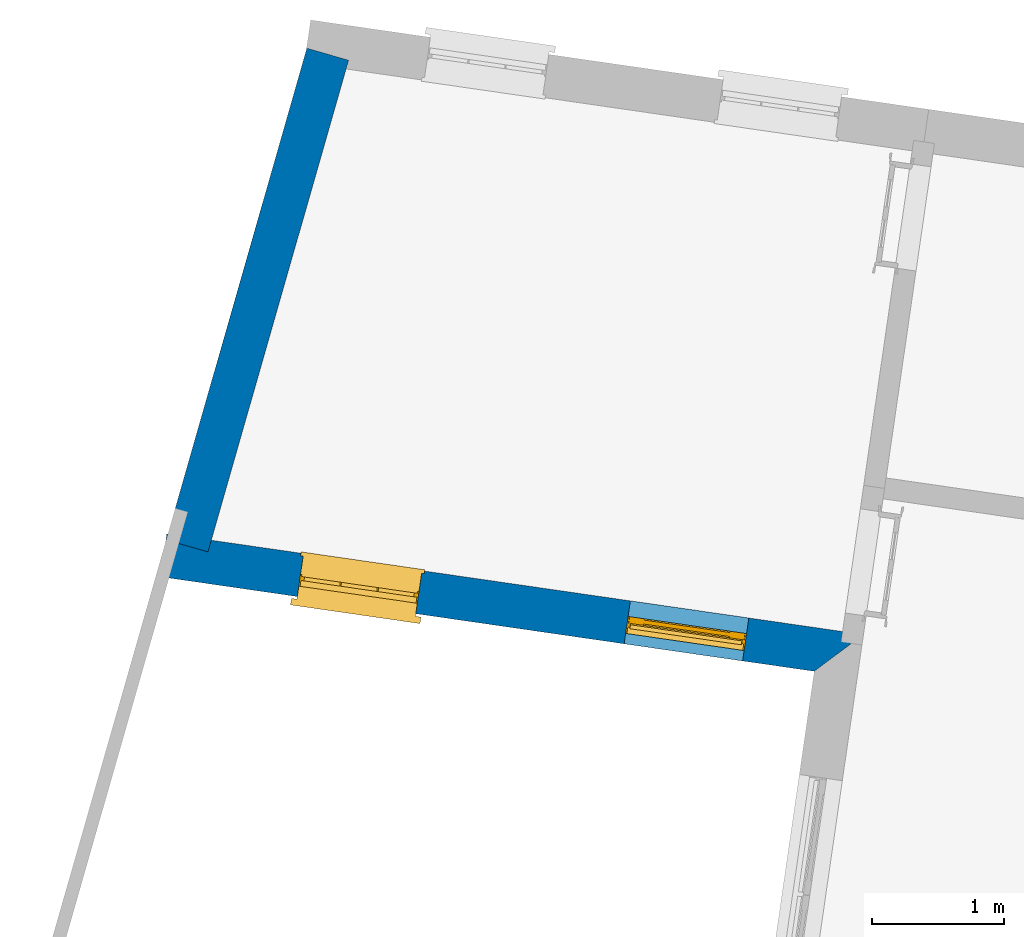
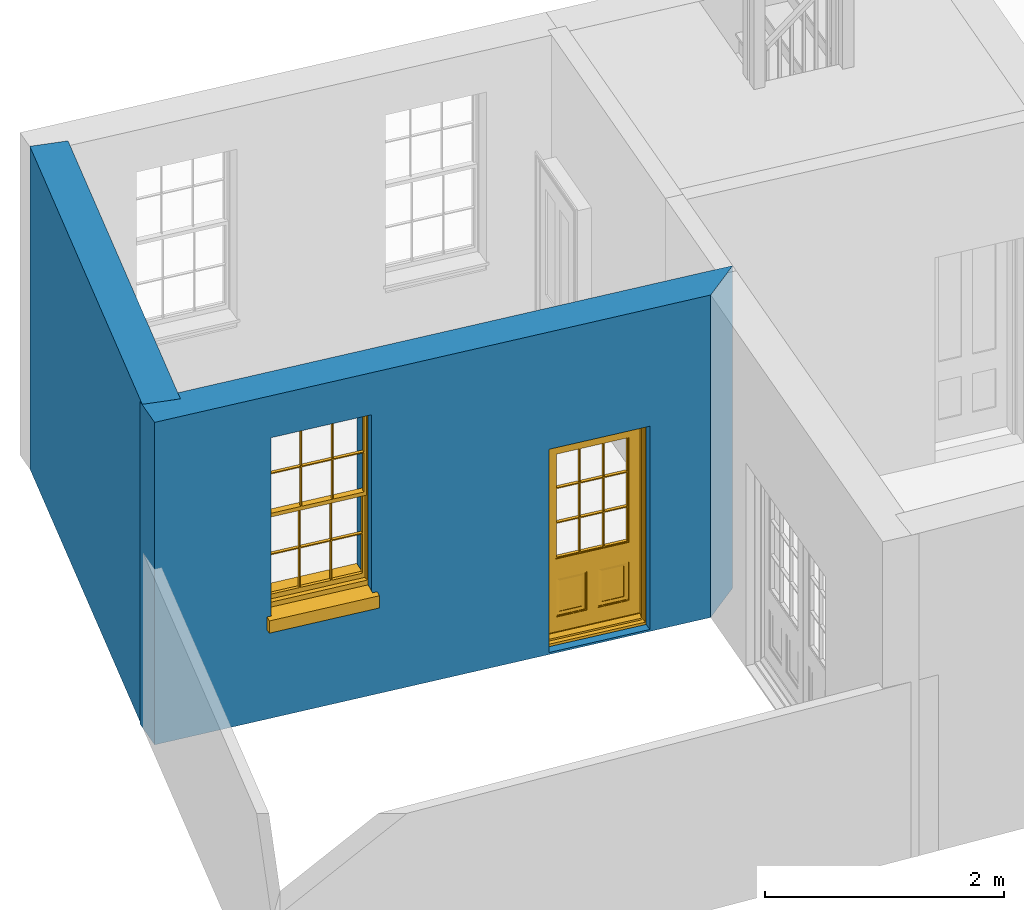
# One storey, part 3 of 7: 2 walls, 1 door, 1 window, 2 openings.
"""IFC4 building model written with IfcOpenShell, lengths in metres."""

from ifc_helpers import new_model, si_unit, frame, origin, origin_with_axes, place, context, subcontext, project, spatial, polyline, outline, extrude, faceted_brep, source, transform, mapped, material, layer, layer_set, layer_usage, type_object, type_shapes, element, fill, save


model = new_model("IFC4")

# Units and contexts
model_context = context("Model", 3, world=origin_with_axes())
body_context = subcontext(model_context, "Body", "Model", "MODEL_VIEW")
ifc_project = project(units=[si_unit("PLANEANGLEUNIT", "RADIAN"), si_unit("MASSUNIT", "GRAM", prefix="KILO"), si_unit("FORCEUNIT", "NEWTON", prefix="KILO"), si_unit("LENGTHUNIT", "METRE"), si_unit("AREAUNIT", "SQUARE_METRE"), si_unit("VOLUMEUNIT", "CUBIC_METRE")], contexts=[model_context, model_context])

# Sites, building, storey
site_1_placement = place(None, origin_with_axes())
site_1 = spatial("IfcSite", under=ifc_project, at=site_1_placement, Name="Tamar")
site_2_placement = place(site_1_placement, origin_with_axes())
site_2 = spatial("IfcSite", under=site_1, at=site_2_placement, Name="Site plot-30", CompositionType="ELEMENT")
building_placement = place(None, origin_with_axes())
building = spatial("IfcBuilding", under=site_2, at=building_placement, Name="Building plot-30", CompositionType="ELEMENT")
storey_placement = place(None, frame((0.0, 0.0, 25.0), z_axis=(0.0, 0.0, 1.0), x_axis=(1.0, 0.0, 0.0)))
storey = spatial("IfcBuildingStorey", under=building, at=storey_placement, Name="plot-30 0", CompositionType="ELEMENT", Elevation=25.0)

# Wall, openings, door, window
ifc_material_1 = material(Name="Masonry")
ifc_layer_1 = layer(ifc_material_1, 0.33, ventilated=False)
ifc_layer_set_1 = layer_set([ifc_layer_1], Name="exterior_0.08_0.25")
ifc_layer_usage_1 = layer_usage(ifc_layer_set_1, "AXIS2", "POSITIVE", -0.25)
wall_type_1 = type_object("IfcWallType", Name="exterior_0.08_0.25", PredefinedType="SOLIDWALL", material=ifc_layer_set_1)
wall_1_placement = place(storey_placement, frame((280.863315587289, 260.407676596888, 0.0), z_axis=(0.0, 0.0, 1.0), x_axis=(0.989705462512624, -0.143119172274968, 0.0)))
wall_1 = element("IfcWall", 1, at=wall_1_placement, inside=storey, type_object=wall_type_1, material=ifc_layer_usage_1, Name="exterior", context=body_context, shape_type="SweptSolid", body=[
    extrude(outline(polyline([(-0.249999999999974, 0.0800000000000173), (-0.249999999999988, -0.249999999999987), (4.77039673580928, -0.249999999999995), (5.10039673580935, 0.0800000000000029), (-0.249999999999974, 0.0800000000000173)])), origin_with_axes(), (0.0, 0.0, 1.0), 3.3),
])
opening_1_placement = place(wall_1_placement, frame((0.800099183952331, 0.0, 1.05)))
opening_1 = element("IfcOpeningElement", 2, at=opening_1_placement, cuts=wall_1, Name="My Opening", ObjectType="Opening", context=body_context, shape_type="SweptSolid", body=[
    extrude(outline(polyline([(0.0, -0.269999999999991), (0.909999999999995, -0.27000000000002), (0.909999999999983, 1.09999999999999), (-1.18793863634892e-14, 1.10000000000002), (0.0, -0.269999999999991)])), origin_with_axes(), (0.0, 0.0, 1.0), 1.82),
])
opening_2_placement = place(wall_1_placement, frame((3.31029755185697, 0.0, 0.0199999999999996)))
opening_2 = element("IfcOpeningElement", 3, at=opening_2_placement, cuts=wall_1, Name="My Opening", ObjectType="Opening", context=body_context, shape_type="SweptSolid", body=[
    extrude(outline(polyline([(0.0, -0.270000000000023), (0.909999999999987, -0.269999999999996), (0.909999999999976, 1.10000000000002), (-1.15463194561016e-14, 1.09999999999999), (0.0, -0.270000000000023)])), origin_with_axes(), (0.0, 0.0, 1.0), 2.08),
])
door_type = type_object("IfcDoorType", Name="door_panelled", OperationType="SINGLE_SWING_LEFT", PredefinedType="NOTDEFINED")
shared_shape_1 = source(origin(), body_context, "Body", "Brep", [
    faceted_brep([(0.545, 0.195, 0.265), (0.745, 0.195, 0.265), (0.745, 0.2, 0.265), (0.545, 0.2, 0.265), (0.745, 0.2, 0.58), (0.545, 0.2, 0.58), (0.545, 0.195, 0.58), (0.515, 0.19, 0.235), (0.775, 0.19, 0.235), (0.745, 0.195, 0.58), (0.515, 0.19, 0.61), (0.515, 0.185, 0.235), (0.775, 0.185, 0.235), (0.775, 0.19, 0.61), (0.515, 0.185, 0.61), (0.785, 0.185, 0.225), (0.505, 0.185, 0.225), (0.775, 0.185, 0.61), (0.505, 0.185, 0.62), (0.785, 0.185, 0.62), (0.505, 0.18, 0.225), (0.785, 0.18, 0.225), (0.505, 0.18, 0.62), (0.785, 0.18, 0.62), (0.883, 0.18, 0.075), (0.898, 0.18, 0.075), (0.405, 0.18, 0.62), (0.405, 0.18, 0.225), (0.027, 0.18, 0.075), (0.785, 0.18, 0.82), (0.125, 0.18, 0.82), (0.405, 0.185, 0.62), (0.405, 0.185, 0.225), (0.898, 0.18, 2.068), (0.027, 0.17, 0.075), (0.883, 0.17, 0.075), (0.125, 0.18, 0.225), (0.012, 0.18, 0.075), (0.785, 0.19, 0.82), (0.125, 0.19, 0.82), (0.125, 0.18, 0.62), (0.125, 0.185, 0.62), (0.395, 0.185, 0.61), (0.395, 0.185, 0.235), (0.125, 0.185, 0.225), (0.785, 0.18, 1.895), (0.027, 0.14, 0.045), (0.883, 0.14, 0.045), (0.558333, 0.19, 0.83), (0.351667, 0.19, 0.83), (0.125, 0.18, 1.895), (0.125, 0.19, 1.895), (0.785, 0.19, 1.895), (0.012, 0.18, 2.068), (0.135, 0.185, 0.61), (0.395, 0.19, 0.61), (0.395, 0.19, 0.235), (0.135, 0.185, 0.235), (0.027, 0.14, 0.027), (0.883, 0.14, 0.027), (0.568333, 0.19, 0.83), (0.558333, 0.22, 0.83), (0.351667, 0.22, 0.83), (0.341667, 0.19, 0.83), (0.135, 0.19, 1.185), (0.135, 0.19, 1.53), (0.775, 0.19, 1.53), (0.775, 0.19, 1.185), (0.135, 0.19, 0.61), (0.365, 0.195, 0.58), (0.365, 0.195, 0.265), (0.135, 0.19, 0.235), (0.568333, 0.19, 1.175), (0.558333, 0.19, 1.175), (0.775, 0.19, 0.83), (0.558333, 0.22, 1.175), (0.785, 0.22, 0.82), (0.125, 0.22, 0.82), (0.351667, 0.22, 1.175), (0.351667, 0.19, 1.175), (0.341667, 0.19, 1.175), (0.135, 0.19, 0.83), (0.135, 0.19, 1.175), (0.135, 0.22, 1.185), (0.135, 0.22, 1.53), (0.135, 0.19, 1.54), (0.351667, 0.19, 1.885), (0.558333, 0.19, 1.885), (0.775, 0.22, 1.53), (0.775, 0.22, 1.185), (0.775, 0.19, 1.175), (0.775, 0.19, 1.54), (0.165, 0.195, 0.58), (0.365, 0.2, 0.58), (0.365, 0.2, 0.265), (0.165, 0.195, 0.265), (0.568333, 0.22, 0.83), (0.568333, 0.22, 1.175), (0.568333, 0.19, 1.185), (0.558333, 0.19, 1.185), (0.775, 0.22, 0.83), (0.785, 0.23, 0.82), (0.125, 0.23, 0.82), (0.341667, 0.22, 0.83), (0.341667, 0.22, 1.175), (0.351667, 0.19, 1.185), (0.341667, 0.19, 1.185), (0.135, 0.22, 0.83), (0.341667, 0.22, 1.185), (0.125, 0.22, 1.895), (0.341667, 0.22, 1.53), (0.341667, 0.19, 1.53), (0.135, 0.19, 1.885), (0.341667, 0.19, 1.54), (0.341667, 0.19, 1.885), (0.558333, 0.22, 1.885), (0.351667, 0.22, 1.885), (0.568333, 0.19, 1.885), (0.785, 0.22, 1.895), (0.568333, 0.22, 1.185), (0.568333, 0.19, 1.53), (0.568333, 0.22, 1.53), (0.568333, 0.19, 1.54), (0.775, 0.19, 1.885), (0.165, 0.2, 0.58), (0.165, 0.2, 0.265), (0.775, 0.22, 1.175), (0.558333, 0.19, 1.53), (0.351667, 0.22, 1.185), (0.558333, 0.22, 1.185), (0.505, 0.23, 0.62), (0.405, 0.23, 0.62), (0.125, 0.23, 1.895), (0.785, 0.23, 1.895), (0.351667, 0.19, 1.53), (0.135, 0.22, 1.175), (0.135, 0.22, 1.54), (0.341667, 0.22, 1.54), (0.135, 0.22, 1.885), (0.351667, 0.19, 1.54), (0.558333, 0.22, 1.54), (0.558333, 0.19, 1.54), (0.351667, 0.22, 1.54), (0.775, 0.22, 1.54), (0.568333, 0.22, 1.54), (0.775, 0.22, 1.885), (0.558333, 0.22, 1.53), (0.405, 0.23, 0.225), (0.505, 0.23, 0.225), (0.125, 0.23, 0.62), (0.785, 0.23, 0.62), (0.012, 0.23, 2.068), (0.898, 0.23, 2.068), (0.351667, 0.22, 1.53), (0.341667, 0.22, 1.885), (0.568333, 0.22, 1.885), (0.405, 0.225, 0.225), (0.405, 0.225, 0.62), (0.505, 0.225, 0.62), (0.505, 0.225, 0.225), (0.898, 0.23, 0.027), (0.012, 0.23, 0.027), (0.125, 0.225, 0.62), (0.785, 0.225, 0.62), (0.395, 0.225, 0.235), (0.395, 0.225, 0.61), (0.125, 0.23, 0.225), (0.125, 0.225, 0.225), (0.515, 0.225, 0.61), (0.515, 0.225, 0.235), (0.785, 0.23, 0.225), (0.785, 0.225, 0.225), (0.135, 0.225, 0.61), (0.775, 0.225, 0.61), (0.135, 0.225, 0.235), (0.395, 0.22, 0.235), (0.395, 0.22, 0.61), (0.515, 0.22, 0.61), (0.515, 0.22, 0.235), (0.775, 0.225, 0.235), (0.135, 0.22, 0.61), (0.775, 0.22, 0.61), (0.135, 0.22, 0.235), (0.365, 0.215, 0.265), (0.365, 0.215, 0.58), (0.545, 0.215, 0.58), (0.545, 0.215, 0.265), (0.775, 0.22, 0.235), (0.165, 0.215, 0.58), (0.745, 0.215, 0.58), (0.165, 0.215, 0.265), (0.365, 0.21, 0.58), (0.365, 0.21, 0.265), (0.545, 0.21, 0.58), (0.545, 0.21, 0.265), (0.745, 0.215, 0.265), (0.165, 0.21, 0.58), (0.745, 0.21, 0.58), (0.165, 0.21, 0.265), (0.745, 0.21, 0.265), (0.885, 0.178, 0.025), (0.025, 0.178, 0.025), (0.025, 0.15, 0.025), (0.885, 0.15, 0.025), (0.9, 0.23, 0.025), (0.01, 0.23, 0.025), (0.9, 0.178, 0.025), (0.91, 0.23, 0.0), (0.0, 0.23, 0.0), (0.01, 0.178, 0.025), (0.9, 0.178, 2.07), (0.9, 0.23, 2.07), (0.885, 0.178, 2.055), (0.91, 0.23, 2.08), (0.01, 0.23, 2.07), (0.0, 0.23, 2.08), (0.01, 0.178, 2.07), (0.025, 0.178, 2.055), (0.0, 0.1, 2.08), (0.91, 0.1, 2.08), (0.01, 0.1, 2.07), (0.9, 0.1, 2.07), (0.01, 0.15, 2.07), (0.9, 0.15, 2.07), (0.0, 0.1, 0.0), (0.91, 0.1, 0.0), (0.01, 0.1, 0.025), (0.9, 0.1, 0.025), (0.01, 0.15, 0.025), (0.025, 0.15, 2.055), (0.9, 0.15, 0.025), (0.885, 0.15, 2.055), (0.898, 0.18, 0.027), (0.012, 0.18, 0.027), (0.883, 0.18, 0.027), (0.027, 0.18, 0.027)], [[[0, 1, 2, 3]], [[2, 4, 5, 3]], [[0, 3, 5, 6]], [[1, 0, 7, 8]], [[9, 4, 2, 1]], [[9, 6, 5, 4]], [[0, 6, 10, 7]], [[8, 7, 11, 12]], [[8, 13, 9, 1]], [[13, 10, 6, 9]], [[7, 10, 14, 11]], [[15, 12, 11, 16]], [[12, 17, 13, 8]], [[17, 14, 10, 13]], [[18, 16, 11, 14]], [[15, 19, 17, 12]], [[15, 16, 20, 21]], [[14, 17, 19, 18]], [[16, 18, 22, 20]], [[21, 23, 19, 15]], [[24, 25, 21, 20]], [[23, 22, 18, 19]], [[20, 22, 26, 27]], [[23, 21, 25]], [[28, 24, 20, 27]], [[22, 23, 29]], [[29, 30, 26, 22]], [[27, 26, 31, 32]], [[23, 25, 33, 29]], [[34, 35, 24, 28]], [[28, 27, 36, 37]], [[38, 39, 30, 29]], [[26, 30, 40]], [[26, 40, 41, 31]], [[42, 43, 32, 31]], [[32, 44, 36, 27]], [[33, 45, 29]], [[46, 47, 35, 34]], [[36, 40, 37]], [[39, 38, 48, 49]], [[50, 30, 39, 51]], [[29, 45, 52, 38]], [[53, 37, 40, 30]], [[44, 41, 40, 36]], [[31, 41, 54, 42]], [[43, 42, 55, 56]], [[57, 44, 32, 43]], [[50, 45, 33, 53]], [[47, 46, 58, 59]], [[60, 48, 38]], [[49, 48, 61, 62]], [[49, 63, 39]], [[50, 53, 30]], [[51, 39, 64, 65]], [[45, 50, 51, 52]], [[66, 67, 38, 52]], [[57, 54, 41, 44]], [[42, 54, 68, 55]], [[56, 55, 69, 70]], [[56, 71, 57, 43]], [[60, 72, 73, 48]], [[60, 38, 74]], [[48, 73, 75, 61]], [[76, 77, 62, 61]], [[62, 78, 79, 49]], [[49, 79, 80, 63]], [[63, 81, 39]], [[82, 64, 39]], [[65, 64, 83, 84]], [[85, 51, 65]], [[52, 51, 86, 87]], [[88, 89, 67, 66]], [[90, 38, 67]], [[91, 66, 52]], [[71, 68, 54, 57]], [[55, 68, 92, 69]], [[69, 93, 94, 70]], [[70, 95, 71, 56]], [[96, 97, 72, 60]], [[73, 72, 98, 99]], [[74, 38, 90]], [[100, 96, 60, 74]], [[75, 73, 79, 78]], [[61, 75, 97, 96]], [[101, 102, 77, 76]], [[77, 103, 62]], [[96, 76, 61]], [[103, 104, 78, 62]], [[80, 79, 105, 106]], [[63, 80, 104, 103]], [[81, 63, 103, 107]], [[81, 82, 39]], [[106, 64, 82, 80]], [[106, 108, 83, 64]], [[84, 83, 77, 109]], [[110, 111, 65, 84]], [[112, 51, 85]], [[113, 85, 65, 111]], [[114, 86, 51]], [[115, 87, 86, 116]], [[117, 52, 87]], [[118, 76, 89, 88]], [[119, 98, 67, 89]], [[120, 121, 88, 66]], [[67, 98, 72, 90]], [[91, 122, 120, 66]], [[91, 52, 123]], [[95, 92, 68, 71]], [[69, 92, 124, 93]], [[94, 93, 124, 125]], [[94, 125, 95, 70]], [[72, 97, 126, 90]], [[127, 99, 98, 120]], [[99, 105, 79, 73]], [[74, 90, 126, 100]], [[96, 100, 76]], [[128, 129, 75, 78]], [[97, 75, 129, 119]], [[130, 131, 102, 101]], [[109, 77, 102, 132]], [[133, 101, 76, 118]], [[77, 107, 103]], [[78, 104, 108, 128]], [[111, 106, 105, 134]], [[104, 80, 82, 135]], [[107, 135, 82, 81]], [[110, 108, 106, 111]], [[104, 135, 83, 108]], [[83, 135, 77]], [[136, 84, 109]], [[110, 84, 136, 137]], [[114, 51, 112]], [[85, 136, 138, 112]], [[113, 137, 136, 85]], [[111, 134, 139, 113]], [[86, 114, 113, 139]], [[140, 141, 87, 115]], [[139, 142, 116, 86]], [[109, 118, 115, 116]], [[117, 123, 52]], [[117, 87, 141, 122]], [[126, 89, 76]], [[143, 118, 88]], [[120, 98, 119, 121]], [[119, 89, 126, 97]], [[144, 143, 88, 121]], [[144, 122, 91, 143]], [[127, 120, 122, 141]], [[143, 91, 123, 145]], [[124, 92, 95, 125]], [[146, 129, 99, 127]], [[99, 129, 128, 105]], [[100, 126, 76]], [[121, 119, 129, 146]], [[147, 131, 130, 148]], [[131, 149, 102]], [[130, 101, 150]], [[102, 151, 132]], [[118, 109, 132, 133]], [[101, 133, 152]], [[107, 77, 135]], [[153, 128, 108, 110]], [[134, 105, 128, 153]], [[109, 138, 136]], [[153, 110, 137, 142]], [[154, 114, 112, 138]], [[137, 113, 114, 154]], [[141, 139, 134, 127]], [[141, 140, 142, 139]], [[144, 140, 115, 155]], [[142, 137, 154, 116]], [[155, 115, 118]], [[116, 154, 109]], [[117, 155, 145, 123]], [[122, 144, 155, 117]], [[143, 145, 118]], [[121, 146, 140, 144]], [[146, 127, 134, 153]], [[156, 157, 131, 147]], [[148, 130, 158, 159]], [[148, 160, 161, 147]], [[157, 162, 149, 131]], [[161, 151, 102, 149]], [[101, 152, 160, 150]], [[163, 158, 130, 150]], [[151, 152, 133, 132]], [[154, 138, 109]], [[142, 140, 146, 153]], [[145, 155, 118]], [[157, 156, 164, 165]], [[147, 166, 167, 156]], [[168, 169, 159, 158]], [[170, 148, 159, 171]], [[148, 170, 160]], [[166, 147, 161]], [[172, 162, 157, 165]], [[166, 149, 162, 167]], [[166, 161, 149]], [[150, 160, 170]], [[163, 173, 168, 158]], [[171, 163, 150, 170]], [[174, 164, 156, 167]], [[175, 176, 165, 164]], [[169, 168, 177, 178]], [[171, 159, 169, 179]], [[167, 162, 172, 174]], [[176, 180, 172, 165]], [[179, 173, 163, 171]], [[181, 177, 168, 173]], [[164, 174, 182, 175]], [[183, 184, 176, 175]], [[178, 177, 185, 186]], [[179, 169, 178, 187]], [[174, 172, 180, 182]], [[184, 188, 180, 176]], [[187, 181, 173, 179]], [[189, 185, 177, 181]], [[175, 182, 190, 183]], [[191, 184, 183, 192]], [[185, 193, 194, 186]], [[187, 178, 186, 195]], [[182, 180, 188, 190]], [[191, 196, 188, 184]], [[195, 189, 181, 187]], [[197, 193, 185, 189]], [[183, 190, 198, 192]], [[198, 196, 191, 192]], [[194, 193, 197, 199]], [[195, 186, 194, 199]], [[188, 196, 198, 190]], [[197, 189, 195, 199]], [[200, 201, 202, 203]], [[201, 200, 204, 205]], [[206, 204, 200]], [[204, 207, 208, 205]], [[209, 201, 205]], [[210, 211, 204, 206]], [[206, 200, 212, 210]], [[211, 213, 207, 204]], [[214, 205, 208, 215]], [[216, 217, 201, 209]], [[205, 214, 216, 209]], [[216, 214, 211, 210]], [[210, 212, 217, 216]], [[214, 215, 213, 211]], [[218, 219, 213, 215]], [[219, 218, 220, 221]], [[221, 220, 222, 223]], [[215, 208, 224, 218]], [[225, 224, 208, 207]], [[224, 226, 220, 218]], [[224, 225, 227, 226]], [[219, 225, 207, 213]], [[228, 222, 220, 226]], [[219, 221, 227, 225]], [[226, 227, 203, 202]], [[202, 229, 222, 228]], [[228, 226, 202]], [[227, 221, 223, 230]], [[230, 203, 227]], [[217, 229, 202, 201]], [[231, 223, 222, 229]], [[230, 223, 231, 203]], [[231, 229, 217, 212]], [[212, 200, 203, 231]], [[33, 152, 151, 53]], [[25, 160, 152, 33]], [[161, 37, 53, 151]], [[232, 160, 25]], [[161, 233, 37]], [[160, 232, 234]], [[24, 234, 232, 25]], [[233, 161, 235]], [[37, 233, 235, 28]], [[161, 160, 234, 235]], [[35, 47, 234, 24]], [[28, 235, 46, 34]], [[58, 235, 234, 59]], [[59, 234, 47]], [[58, 46, 235]]]),
])
type_shapes(door_type, [shared_shape_1])
door_placement = place(storey_placement, frame((284.10089298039, 259.666689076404, 0.0199999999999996), z_axis=(0.0, 0.0, 1.0), x_axis=(0.900631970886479, -0.130238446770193, 0.0)))
door = element("IfcDoor", 4, at=door_placement, inside=storey, type_object=door_type, Name="kitchen outside door", OverallHeight=2.08, OverallWidth=0.91, context=body_context, shape_type="MappedRepresentation", body=[
    mapped(shared_shape_1, transform((0.0, 0.0, 0.0), scale=1.0)),
])
fill(opening_2, door)
window_type = type_object("IfcWindowType", Name="sash_big", PartitioningType="DOUBLE_PANEL_HORIZONTAL", PredefinedType="NOTDEFINED")
shared_shape_2 = source(origin(), body_context, "Body", "Brep", [
    faceted_brep([(0.033125, 0.145, 0.975209), (0.01, 0.145, 0.975209), (0.033125, 0.145, 1.376042), (0.876875, 0.145, 0.975209), (0.876875, 0.145, 1.376042), (0.9, 0.145, 0.975209), (0.876875, 0.145, 1.386042), (0.876875, 0.145, 1.786875), (0.9, 0.145, 1.81), (0.033125, 0.145, 1.786875), (0.033125, 0.145, 1.386042), (0.01, 0.145, 1.81), (0.876875, 0.115, 1.376042), (0.876875, 0.115, 0.975209), (0.9, 0.115, 0.937083), (0.033125, 0.115, 1.786875), (0.01, 0.115, 1.81), (0.033125, 0.115, 1.386042), (0.01, 0.115, 0.937083), (0.033125, 0.115, 0.975209), (0.033125, 0.115, 1.376042), (0.876875, 0.115, 1.786875), (0.876875, 0.115, 1.386042), (0.9, 0.115, 1.81), (0.033125, 0.145, 0.937083), (0.01, 0.145, 0.937083), (0.033125, 0.145, 0.53625), (0.876875, 0.145, 0.937083), (0.876875, 0.145, 0.53625), (0.9, 0.145, 0.937083), (0.876875, 0.145, 0.52625), (0.876875, 0.145, 0.125417), (0.9, 0.145, 0.077167), (0.033125, 0.145, 0.125417), (0.033125, 0.145, 0.52625), (0.01, 0.145, 0.077167), (-0.0425, 0.0, 0.01), (-0.0425, -0.05, 0.001667), (0.0, 0.0, 0.01), (0.9525, 0.0, 0.01), (0.91, 0.0, 0.01), (0.9525, -0.05, 0.001667), (-0.02, 0.33, 0.077167), (0.0, 0.33, 0.077167), (-0.02, 0.36, 0.077167), (0.0, 0.19, 0.077167), (0.01, 0.19, 0.077167), (0.91, 0.19, 0.077167), (0.91, 0.33, 0.077167), (0.9, 0.19, 0.077167), (0.93, 0.33, 0.077167), (0.93, 0.36, 0.077167), (0.01, 0.175, 0.975209), (0.9, 0.175, 0.975209), (0.876875, 0.175, 0.125417), (0.876875, 0.175, 0.52625), (0.9, 0.175, 0.077167), (0.876875, 0.175, 0.53625), (0.876875, 0.175, 0.937083), (0.033125, 0.175, 0.125417), (0.01, 0.175, 0.077167), (0.033125, 0.175, 0.52625), (0.033125, 0.175, 0.937083), (0.033125, 0.175, 0.53625), (-0.02, 0.33, 0.052167), (-0.02, 0.36, 0.052167), (0.93, 0.36, 0.052167), (0.93, 0.33, 0.052167), (0.91, 0.33, 0.052167), (0.0, 0.33, 0.052167), (0.91, 0.1, 0.026667), (0.0, 0.1, 0.026667), (-0.0425, -0.05, -0.123333), (0.9525, -0.05, -0.123333), (-0.0425, 0.0, -0.123333), (0.9525, 0.0, -0.123333), (0.01, 0.19, 1.81), (0.9, 0.19, 1.81), (0.0, 0.19, 1.82), (0.91, 0.19, 1.82), (0.01, 0.1, 0.077167), (0.9, 0.1, 0.077167), (0.592292, 0.145, 0.125417), (0.592292, 0.175, 0.125417), (0.317708, 0.175, 0.125417), (0.317708, 0.145, 0.125417), (0.592292, 0.145, 0.53625), (0.317708, 0.145, 0.53625), (0.317708, 0.145, 0.52625), (0.592292, 0.145, 0.52625), (0.592292, 0.175, 0.53625), (0.317708, 0.175, 0.53625), (0.592292, 0.115, 1.386042), (0.592292, 0.145, 1.386042), (0.317708, 0.145, 1.386042), (0.317708, 0.115, 1.386042), (0.317708, 0.115, 1.376042), (0.592292, 0.115, 1.376042), (0.317708, 0.145, 1.376042), (0.592292, 0.145, 1.376042), (0.602292, 0.115, 1.376042), (0.592292, 0.115, 0.975209), (0.602292, 0.115, 0.975209), (0.602292, 0.145, 0.975209), (0.592292, 0.145, 0.975209), (0.602292, 0.145, 1.376042), (0.602292, 0.175, 0.53625), (0.602292, 0.145, 0.53625), (0.317708, 0.175, 0.52625), (0.307708, 0.175, 0.125417), (0.307708, 0.175, 0.52625), (0.602292, 0.175, 0.52625), (0.602292, 0.175, 0.125417), (0.592292, 0.175, 0.52625), (0.307708, 0.175, 0.53625), (0.317708, 0.175, 0.937083), (0.307708, 0.175, 0.937083), (0.602292, 0.175, 0.937083), (0.592292, 0.175, 0.937083), (0.307708, 0.145, 0.52625), (0.307708, 0.145, 0.125417), (0.307708, 0.145, 0.53625), (0.307708, 0.145, 0.937083), (0.592292, 0.145, 0.937083), (0.317708, 0.145, 0.937083), (0.602292, 0.145, 0.937083), (0.602292, 0.145, 0.52625), (0.602292, 0.145, 0.125417), (0.307708, 0.115, 1.386042), (0.307708, 0.115, 1.376042), (0.307708, 0.115, 0.975209), (0.317708, 0.115, 0.975209), (0.317708, 0.115, 1.786875), (0.307708, 0.115, 1.786875), (0.602292, 0.115, 1.786875), (0.592292, 0.115, 1.786875), (0.602292, 0.115, 1.386042), (0.602292, 0.145, 1.386042), (0.307708, 0.145, 1.386042), (0.307708, 0.145, 1.786875), (0.317708, 0.145, 1.786875), (0.592292, 0.145, 1.786875), (0.602292, 0.145, 1.786875), (0.307708, 0.145, 1.376042), (0.317708, 0.145, 0.975209), (0.307708, 0.145, 0.975209), (0.91, 0.1, 1.82), (0.9, 0.1, 1.81), (0.01, 0.1, 1.81), (0.0, 0.1, 1.82), (0.91, 0.0, 0.0), (0.0, 0.0, 0.0), (0.91, 0.33, 0.0), (0.0, 0.33, 0.0)], [[[0, 1, 2]], [[3, 4, 5]], [[6, 7, 8]], [[9, 10, 11]], [[12, 13, 14]], [[15, 16, 17]], [[18, 19, 20]], [[21, 22, 23]], [[24, 25, 26]], [[27, 28, 29]], [[30, 31, 32]], [[33, 34, 35]], [[14, 27, 29]], [[25, 24, 18]], [[36, 37, 38]], [[39, 40, 41]], [[42, 43, 44]], [[45, 46, 43]], [[47, 48, 49]], [[50, 51, 48]], [[1, 0, 52]], [[5, 53, 3]], [[54, 55, 56]], [[57, 58, 53]], [[59, 60, 61]], [[62, 63, 52]], [[48, 43, 46, 49]], [[51, 44, 43, 48]], [[64, 42, 44, 65]], [[65, 44, 51, 66]], [[66, 51, 50, 67]], [[65, 66, 68, 69]], [[60, 56, 49, 46]], [[70, 71, 38, 40]], [[37, 41, 40, 38]], [[37, 72, 73, 41]], [[74, 75, 73, 72]], [[8, 11, 76, 77]], [[76, 78, 79, 77]], [[32, 35, 80, 81]], [[81, 80, 71, 70]], [[82, 83, 84, 85]], [[86, 87, 88, 89]], [[86, 90, 91, 87]], [[92, 93, 94, 95]], [[92, 95, 96, 97]], [[96, 98, 99, 97]], [[100, 97, 101, 102]], [[103, 104, 99, 105]], [[97, 99, 104, 101]], [[102, 103, 105, 100]], [[28, 57, 106, 107]], [[108, 84, 109, 110]], [[111, 112, 83, 113]], [[114, 110, 61, 63]], [[90, 113, 108, 91]], [[115, 91, 114, 116]], [[117, 106, 90, 118]], [[111, 106, 57, 55]], [[119, 110, 109, 120]], [[34, 61, 110, 119]], [[89, 113, 83, 82]], [[88, 108, 113, 89]], [[85, 84, 108, 88]], [[121, 114, 63, 26]], [[122, 116, 114, 121]], [[123, 118, 90, 86]], [[87, 91, 115, 124]], [[107, 106, 117, 125]], [[126, 111, 55, 30]], [[127, 112, 111, 126]], [[126, 30, 28, 107]], [[88, 119, 120, 85]], [[126, 89, 82, 127]], [[125, 123, 86, 107]], [[121, 26, 34, 119]], [[124, 122, 121, 87]], [[128, 17, 20, 129]], [[96, 129, 130, 131]], [[132, 133, 128, 95]], [[134, 135, 92, 136]], [[100, 12, 22, 136]], [[137, 6, 4, 105]], [[94, 138, 139, 140]], [[137, 93, 141, 142]], [[99, 98, 94, 93]], [[143, 2, 10, 138]], [[144, 145, 143, 98]], [[129, 143, 145, 130]], [[20, 2, 143, 129]], [[131, 144, 98, 96]], [[128, 138, 10, 17]], [[133, 139, 138, 128]], [[135, 141, 93, 92]], [[95, 94, 140, 132]], [[22, 6, 137, 136]], [[136, 137, 142, 134]], [[100, 105, 4, 12]], [[107, 86, 89, 126]], [[106, 111, 113, 90]], [[91, 108, 110, 114]], [[87, 121, 119, 88]], [[97, 100, 136, 92]], [[129, 96, 95, 128]], [[98, 143, 138, 94]], [[105, 99, 93, 137]], [[131, 101, 104, 144]], [[124, 115, 118, 123]], [[132, 140, 141, 135]], [[120, 109, 59, 33]], [[15, 9, 139, 133]], [[134, 142, 7, 21]], [[31, 54, 112, 127]], [[36, 74, 72, 37]], [[39, 41, 73, 75]], [[18, 14, 101, 131]], [[23, 16, 132, 135]], [[83, 56, 60, 84]], [[52, 53, 118, 115]], [[53, 52, 144, 104]], [[11, 8, 141, 140]], [[14, 18, 124, 123]], [[2, 1, 11, 10]], [[8, 5, 4, 6]], [[57, 53, 56, 55]], [[60, 52, 63, 61]], [[26, 25, 35, 34]], [[32, 29, 28, 30]], [[14, 23, 22, 12]], [[18, 20, 17, 16]], [[19, 0, 2, 20]], [[17, 10, 9, 15]], [[12, 4, 3, 13]], [[21, 7, 6, 22]], [[27, 58, 57, 28]], [[30, 55, 54, 31]], [[33, 59, 61, 34]], [[26, 63, 62, 24]], [[5, 8, 77, 53]], [[76, 11, 1, 52]], [[46, 45, 78, 76]], [[49, 77, 79, 47]], [[70, 146, 147, 81]], [[71, 80, 148, 149]], [[19, 130, 145, 0]], [[102, 13, 3, 103]], [[116, 122, 24, 62]], [[29, 32, 81, 14]], [[80, 35, 25, 18]], [[60, 46, 76, 52]], [[77, 49, 56, 53]], [[23, 14, 81, 147]], [[16, 148, 80, 18]], [[35, 85, 120]], [[120, 33, 35]], [[127, 82, 32]], [[32, 31, 127]], [[32, 82, 85, 35]], [[102, 101, 14]], [[14, 13, 102]], [[18, 131, 130]], [[130, 19, 18]], [[134, 21, 23]], [[23, 135, 134]], [[16, 15, 133]], [[133, 132, 16]], [[11, 140, 139]], [[139, 9, 11]], [[142, 141, 8]], [[8, 7, 142]], [[23, 147, 148, 16]], [[146, 149, 148, 147]], [[52, 115, 116]], [[116, 62, 52]], [[118, 53, 117]], [[58, 117, 53]], [[27, 125, 117, 58]], [[56, 83, 112]], [[112, 54, 56]], [[109, 84, 60]], [[60, 59, 109]], [[125, 27, 14]], [[14, 123, 125]], [[122, 124, 18]], [[18, 24, 122]], [[145, 144, 52]], [[52, 0, 145]], [[103, 3, 53]], [[53, 104, 103]], [[79, 78, 149, 146]], [[78, 45, 71, 149]], [[146, 70, 47, 79]], [[150, 75, 74, 151]], [[68, 66, 67]], [[48, 68, 67, 50]], [[69, 64, 65]], [[42, 64, 69, 43]], [[69, 68, 152, 153]], [[70, 68, 48, 47]], [[150, 152, 68, 70]], [[43, 69, 71, 45]], [[69, 153, 151, 71]], [[152, 150, 151, 153]], [[38, 151, 74, 36]], [[71, 151, 38]], [[39, 75, 150, 40]], [[40, 150, 70]]]),
])
type_shapes(window_type, [shared_shape_2])
window_placement = place(storey_placement, frame((281.616535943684, 260.025946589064, 1.05), z_axis=(0.0, 0.0, 1.0), x_axis=(0.900631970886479, -0.13023844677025, 0.0)))
window = element("IfcWindow", 5, at=window_placement, inside=storey, type_object=window_type, Name="kitchen outside window", OverallHeight=1.82, OverallWidth=0.91, context=body_context, shape_type="MappedRepresentation", body=[
    mapped(shared_shape_2, transform((0.0, 0.0, 0.0), scale=1.0)),
])
fill(opening_1, window)

# Wall
ifc_material_2 = material(Name="Masonry")
ifc_layer_2 = layer(ifc_material_2, 0.33, ventilated=False)
ifc_layer_set_2 = layer_set([ifc_layer_2], Name="party_0.08_0.25")
ifc_layer_usage_2 = layer_usage(ifc_layer_set_2, "AXIS2", "POSITIVE", -0.25)
wall_type_2 = type_object("IfcWallType", Name="party_0.08_0.25", PredefinedType="SOLIDWALL", material=ifc_layer_set_2)
wall_2_placement = place(storey_placement, frame((281.932718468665, 264.14507429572, 0.0), z_axis=(0.0, 0.0, 1.0), x_axis=(-0.275095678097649, -0.961416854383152, 0.0)))
element("IfcWall", 6, at=wall_2_placement, inside=storey, type_object=wall_type_2, material=ifc_layer_usage_2, Name="party", context=body_context, shape_type="SweptSolid", body=[
    extrude(outline(polyline([(1.14960965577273e-14, 0.080000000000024), (2.01370952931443e-15, -0.249999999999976), (3.88738525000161, -0.249999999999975), (3.88738525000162, 0.0800000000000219), (1.14960965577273e-14, 0.080000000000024)])), origin_with_axes(), (0.0, 0.0, 1.0), 3.3),
])

save(model, "model.ifc")
